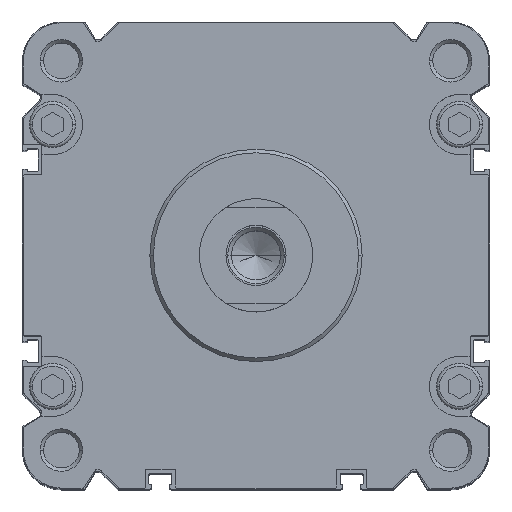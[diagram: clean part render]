
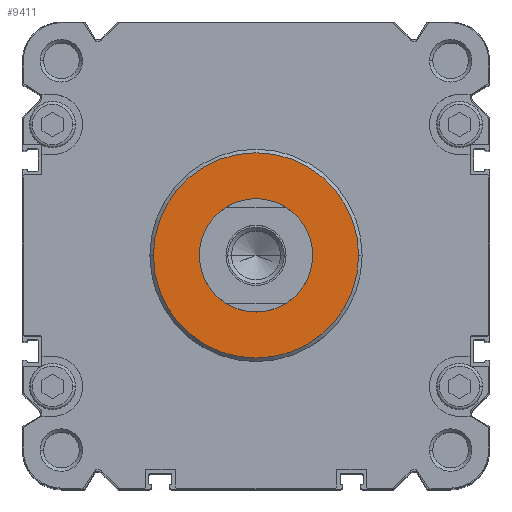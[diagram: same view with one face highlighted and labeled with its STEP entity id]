
A CAD part, top view. The second image highlights one B-rep face of the part: STEP entity #9411.
In plain terms, the highlighted planar face has unit normal (0, 0, 1).
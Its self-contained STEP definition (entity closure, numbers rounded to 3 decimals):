
#90 = PLANE ( 'NONE',  #9622 ) ;
#271 = CIRCLE ( 'NONE', #5720, 16. ) ;
#469 = DIRECTION ( 'NONE',  ( 1., 0., 0. ) ) ;
#643 = VERTEX_POINT ( 'NONE', #784 ) ;
#784 = CARTESIAN_POINT ( 'NONE',  ( -29., 0., 4. ) ) ;
#1078 = CARTESIAN_POINT ( 'NONE',  ( 0., 0., 4. ) ) ;
#3420 = CARTESIAN_POINT ( 'NONE',  ( -16., 0., 4. ) ) ;
#3667 = CARTESIAN_POINT ( 'NONE',  ( 0., 0., 4. ) ) ;
#3680 = CARTESIAN_POINT ( 'NONE',  ( 0., 0., 4. ) ) ;
#4137 = EDGE_CURVE ( 'NONE', #19156, #9295, #16418, .T. ) ;
#4787 = CARTESIAN_POINT ( 'NONE',  ( 0., -29., 4. ) ) ;
#5487 = CIRCLE ( 'NONE', #7580, 29. ) ;
#5720 = AXIS2_PLACEMENT_3D ( 'NONE', #3667, #10177, #469 ) ;
#6063 = EDGE_CURVE ( 'NONE', #6191, #643, #17785, .T. ) ;
#6109 = EDGE_LOOP ( 'NONE', ( #17796, #9459 ) ) ;
#6191 = VERTEX_POINT ( 'NONE', #12328 ) ;
#7199 = AXIS2_PLACEMENT_3D ( 'NONE', #1078, #17106, #20526 ) ;
#7580 = AXIS2_PLACEMENT_3D ( 'NONE', #8818, #7824, #10410 ) ;
#7824 = DIRECTION ( 'NONE',  ( 0., 0., -1. ) ) ;
#7996 = FACE_OUTER_BOUND ( 'NONE', #6109, .T. ) ;
#8444 = EDGE_CURVE ( 'NONE', #643, #6191, #5487, .T. ) ;
#8818 = CARTESIAN_POINT ( 'NONE',  ( 0., 0., 4. ) ) ;
#9295 = VERTEX_POINT ( 'NONE', #13972 ) ;
#9340 = ORIENTED_EDGE ( 'NONE', *, *, #4137, .T. ) ;
#9411 = ADVANCED_FACE ( 'NONE', ( #7996, #17611 ), #90, .T. ) ;
#9459 = ORIENTED_EDGE ( 'NONE', *, *, #8444, .F. ) ;
#9622 = AXIS2_PLACEMENT_3D ( 'NONE', #4787, #16216, #16001 ) ;
#10177 = DIRECTION ( 'NONE',  ( 0., 0., -1. ) ) ;
#10189 = DIRECTION ( 'NONE',  ( 0., 0., -1. ) ) ;
#10410 = DIRECTION ( 'NONE',  ( 1., 0., 0. ) ) ;
#12328 = CARTESIAN_POINT ( 'NONE',  ( 29., 0., 4. ) ) ;
#12372 = ORIENTED_EDGE ( 'NONE', *, *, #17128, .T. ) ;
#13972 = CARTESIAN_POINT ( 'NONE',  ( 16., 0., 4. ) ) ;
#15364 = AXIS2_PLACEMENT_3D ( 'NONE', #3680, #10189, #16716 ) ;
#16001 = DIRECTION ( 'NONE',  ( -1., 0., 0. ) ) ;
#16216 = DIRECTION ( 'NONE',  ( 0., 0., 1. ) ) ;
#16418 = CIRCLE ( 'NONE', #7199, 16. ) ;
#16716 = DIRECTION ( 'NONE',  ( 1., 0., 0. ) ) ;
#17106 = DIRECTION ( 'NONE',  ( 0., 0., -1. ) ) ;
#17128 = EDGE_CURVE ( 'NONE', #9295, #19156, #271, .T. ) ;
#17611 = FACE_BOUND ( 'NONE', #20137, .T. ) ;
#17785 = CIRCLE ( 'NONE', #15364, 29. ) ;
#17796 = ORIENTED_EDGE ( 'NONE', *, *, #6063, .F. ) ;
#19156 = VERTEX_POINT ( 'NONE', #3420 ) ;
#20137 = EDGE_LOOP ( 'NONE', ( #12372, #9340 ) ) ;
#20526 = DIRECTION ( 'NONE',  ( 1., 0., 0. ) ) ;
